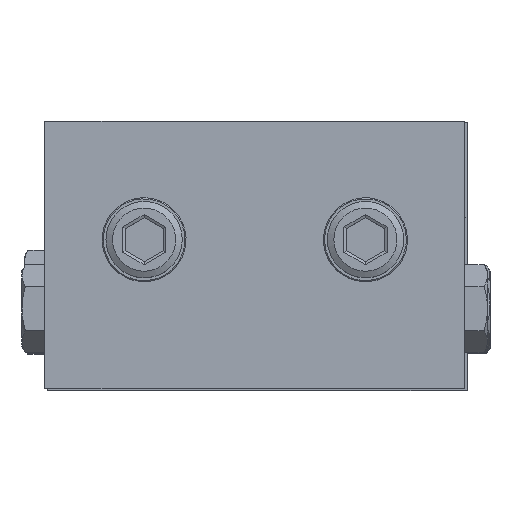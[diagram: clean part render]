
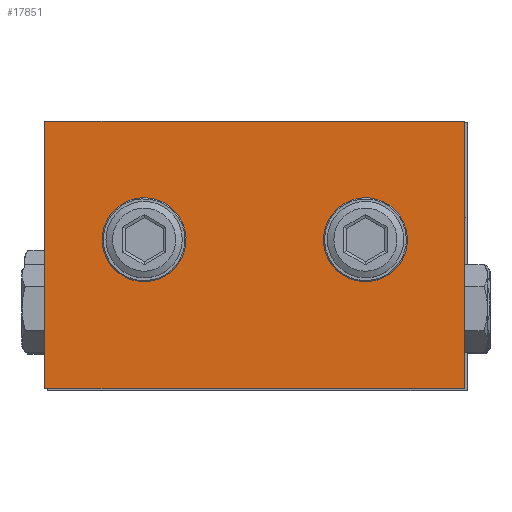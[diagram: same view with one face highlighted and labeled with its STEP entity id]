
A CAD part, top view. The second image highlights one B-rep face of the part: STEP entity #17851.
In plain terms, the highlighted planar face has unit normal (0, 0, 1) as drawn and (0, 0, -1) by its records, which use the part's own axes.
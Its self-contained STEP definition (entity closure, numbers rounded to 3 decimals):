
#684 = ORIENTED_EDGE ( 'NONE', *, *, #9645, .F. ) ;
#1319 = CIRCLE ( 'NONE', #22339, 3.1 ) ;
#1665 = CARTESIAN_POINT ( 'NONE',  ( 0., 0., -4.85 ) ) ;
#1742 = EDGE_CURVE ( 'NONE', #7528, #7528, #12336, .T. ) ;
#3935 = ORIENTED_EDGE ( 'NONE', *, *, #31348, .F. ) ;
#5132 = VERTEX_POINT ( 'NONE', #16348 ) ;
#5273 = DIRECTION ( 'NONE',  ( -1., 0., 0. ) ) ;
#5706 = AXIS2_PLACEMENT_3D ( 'NONE', #18654, #18467, #21306 ) ;
#6390 = LINE ( 'NONE', #23328, #31691 ) ;
#6577 = DIRECTION ( 'NONE',  ( 0., 1., 0. ) ) ;
#6650 = DIRECTION ( 'NONE',  ( 1., 0., 0. ) ) ;
#6720 = FACE_BOUND ( 'NONE', #17444, .T. ) ;
#7528 = VERTEX_POINT ( 'NONE', #7905 ) ;
#7855 = EDGE_LOOP ( 'NONE', ( #21672 ) ) ;
#7905 = CARTESIAN_POINT ( 'NONE',  ( 11.4, -15.5, -4.85 ) ) ;
#8671 = CARTESIAN_POINT ( 'NONE',  ( 0., 0., -4.85 ) ) ;
#9588 = CARTESIAN_POINT ( 'NONE',  ( -11.4, -15.5, -4.85 ) ) ;
#9645 = EDGE_CURVE ( 'NONE', #19154, #13402, #11136, .T. ) ;
#9852 = EDGE_CURVE ( 'NONE', #11042, #19154, #6390, .T. ) ;
#10492 = DIRECTION ( 'NONE',  ( 0., 0., 1. ) ) ;
#10894 = EDGE_CURVE ( 'NONE', #5132, #11042, #24333, .T. ) ;
#11042 = VERTEX_POINT ( 'NONE', #31836 ) ;
#11136 = LINE ( 'NONE', #8671, #22090 ) ;
#12336 = CIRCLE ( 'NONE', #5706, 3.1 ) ;
#12546 = VECTOR ( 'NONE', #6650, 1000. ) ;
#12673 = ORIENTED_EDGE ( 'NONE', *, *, #10894, .F. ) ;
#12688 = LINE ( 'NONE', #15362, #18655 ) ;
#13402 = VERTEX_POINT ( 'NONE', #24406 ) ;
#15255 = FACE_BOUND ( 'NONE', #7855, .T. ) ;
#15362 = CARTESIAN_POINT ( 'NONE',  ( -27.5, 0., -4.85 ) ) ;
#16348 = CARTESIAN_POINT ( 'NONE',  ( -27.5, -35., -4.85 ) ) ;
#16869 = EDGE_CURVE ( 'NONE', #34727, #34727, #1319, .T. ) ;
#17444 = EDGE_LOOP ( 'NONE', ( #32032 ) ) ;
#17851 = ADVANCED_FACE ( 'NONE', ( #15255, #6720, #29679 ), #31761, .F. ) ;
#18467 = DIRECTION ( 'NONE',  ( 0., 0., -1. ) ) ;
#18654 = CARTESIAN_POINT ( 'NONE',  ( 14.5, -15.5, -4.85 ) ) ;
#18655 = VECTOR ( 'NONE', #24141, 1000. ) ;
#19154 = VERTEX_POINT ( 'NONE', #22371 ) ;
#19469 = DIRECTION ( 'NONE',  ( 1., 0., 0. ) ) ;
#21306 = DIRECTION ( 'NONE',  ( -1., 0., 0. ) ) ;
#21672 = ORIENTED_EDGE ( 'NONE', *, *, #16869, .F. ) ;
#22090 = VECTOR ( 'NONE', #5273, 1000. ) ;
#22339 = AXIS2_PLACEMENT_3D ( 'NONE', #27728, #24546, #19469 ) ;
#22371 = CARTESIAN_POINT ( 'NONE',  ( 27.5, 0., -4.85 ) ) ;
#23328 = CARTESIAN_POINT ( 'NONE',  ( 27.5, 0., -4.85 ) ) ;
#24141 = DIRECTION ( 'NONE',  ( 0., -1., 0. ) ) ;
#24333 = LINE ( 'NONE', #35215, #12546 ) ;
#24406 = CARTESIAN_POINT ( 'NONE',  ( -27.5, 0., -4.85 ) ) ;
#24546 = DIRECTION ( 'NONE',  ( 0., 0., -1. ) ) ;
#24773 = DIRECTION ( 'NONE',  ( 1., 0., 0. ) ) ;
#27728 = CARTESIAN_POINT ( 'NONE',  ( -14.5, -15.5, -4.85 ) ) ;
#28419 = AXIS2_PLACEMENT_3D ( 'NONE', #1665, #10492, #24773 ) ;
#29679 = FACE_OUTER_BOUND ( 'NONE', #35452, .T. ) ;
#31348 = EDGE_CURVE ( 'NONE', #13402, #5132, #12688, .T. ) ;
#31676 = ORIENTED_EDGE ( 'NONE', *, *, #9852, .F. ) ;
#31691 = VECTOR ( 'NONE', #6577, 1000. ) ;
#31761 = PLANE ( 'NONE',  #28419 ) ;
#31836 = CARTESIAN_POINT ( 'NONE',  ( 27.5, -35., -4.85 ) ) ;
#32032 = ORIENTED_EDGE ( 'NONE', *, *, #1742, .F. ) ;
#34727 = VERTEX_POINT ( 'NONE', #9588 ) ;
#35215 = CARTESIAN_POINT ( 'NONE',  ( 0., -35., -4.85 ) ) ;
#35452 = EDGE_LOOP ( 'NONE', ( #684, #31676, #12673, #3935 ) ) ;
